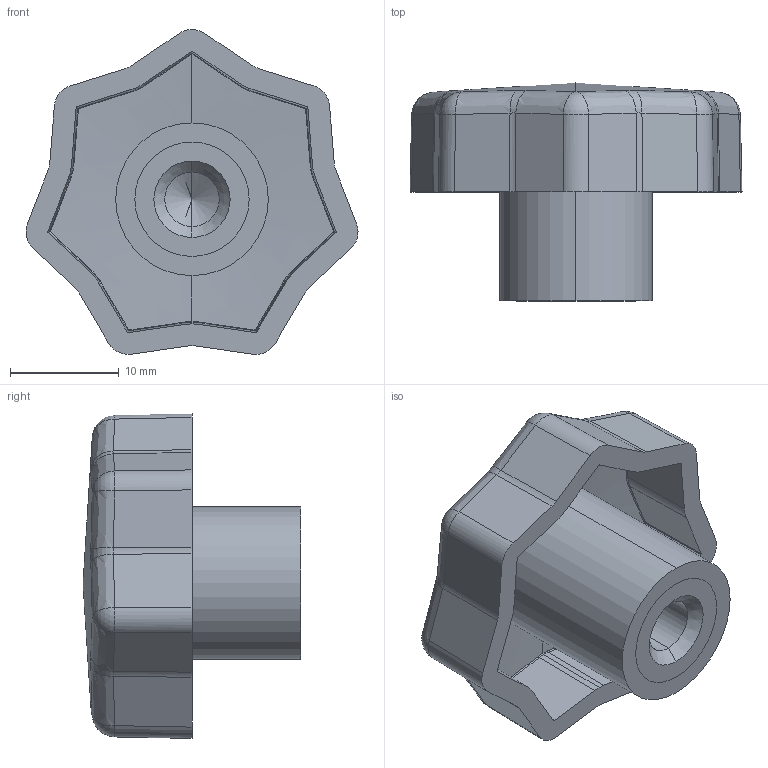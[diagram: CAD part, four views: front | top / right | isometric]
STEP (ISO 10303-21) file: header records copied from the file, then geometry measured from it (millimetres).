
FILE_DESCRIPTION (( 'STEP AP203' ), '1' );
FILE_NAME ('AP-1020-32-M6.STEP', '2015-11-23T10:08:55', ( '' ), ( '' ), 'SwSTEP 2.0', 'SolidWorks 2014', '' );
FILE_SCHEMA (( 'CONFIG_CONTROL_DESIGN' ));
Length unit declared in the file: millimetre
Products named in the file (1): AP-1020-32-M6
Bounding box: 30.46 x 20 x 29.8 mm (x, y, z)
Surface area: 5583.3 mm2 (no closed solid volume)
Topology: 0 solids, 3 shells, 162 faces, 372 edges, 220 vertices
Faces by surface type: cylinder 58, bspline 42, plane 40, sphere 14, cone 8
Entity records: 4919 total; most frequent: CARTESIAN_POINT 1585, ORIENTED_EDGE 734, DIRECTION 608, EDGE_CURVE 368, AXIS2_PLACEMENT_3D 243, VERTEX_POINT 220, EDGE_LOOP 171, FACE_OUTER_BOUND 162
